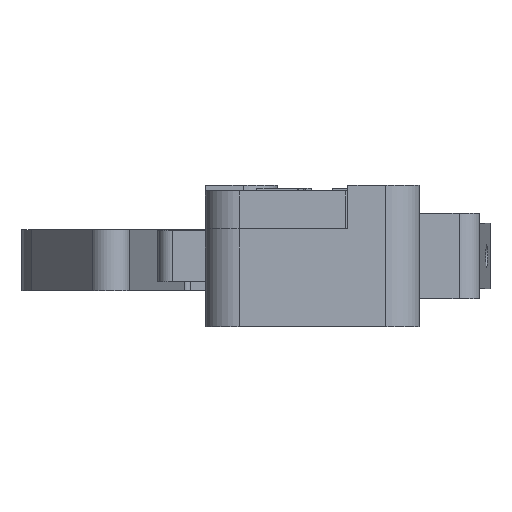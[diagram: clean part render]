
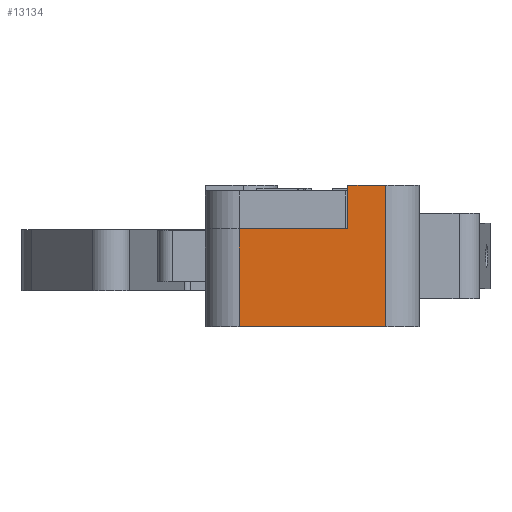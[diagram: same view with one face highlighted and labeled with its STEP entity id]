
A CAD part, left-side view. The second image highlights one B-rep face of the part: STEP entity #13134.
In plain terms, the highlighted planar face has unit normal (-1, 0, 0).
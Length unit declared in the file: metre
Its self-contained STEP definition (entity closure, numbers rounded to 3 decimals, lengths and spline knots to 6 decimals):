
#12180=CARTESIAN_POINT('',(-0.027238,-0.017123,0.033313));
#12181=VERTEX_POINT('',#12180);
#12215=CARTESIAN_POINT('',(-0.027238,-0.014323,0.033313));
#12216=VERTEX_POINT('',#12215);
#12219=CARTESIAN_POINT('',(-0.027238,-0.014323,0.033313));
#12220=DIRECTION('',(0.,-1.,0.));
#12221=VECTOR('',#12220,1.);
#12222=LINE('',#12219,#12221);
#12223=EDGE_CURVE('',#12216,#12181,#12222,.T.);
#12280=CARTESIAN_POINT('',(-0.027238,-0.014323,0.030113));
#12281=VERTEX_POINT('',#12280);
#12284=CARTESIAN_POINT('',(-0.027238,-0.014323,0.033313));
#12285=DIRECTION('',(0.,0.,-1.));
#12286=VECTOR('',#12285,1.);
#12287=LINE('',#12284,#12286);
#12288=EDGE_CURVE('',#12216,#12281,#12287,.T.);
#13079=CARTESIAN_POINT('',(-0.027238,-0.017123,0.022913));
#13080=VERTEX_POINT('',#13079);
#13085=CARTESIAN_POINT('',(-0.027238,-0.017123,0.033313));
#13086=DIRECTION('',(0.,0.,-1.));
#13087=VECTOR('',#13086,1.);
#13088=LINE('',#13085,#13087);
#13089=EDGE_CURVE('',#12181,#13080,#13088,.T.);
#13102=CARTESIAN_POINT('',(-0.027238,-0.014323,0.033313));
#13103=DIRECTION('',(1.,0.,0.));
#13104=DIRECTION('',(0.,1.,0.));
#13105=AXIS2_PLACEMENT_3D('',#13102,#13103,#13104);
#13106=PLANE('',#13105);
#13107=CARTESIAN_POINT('',(-0.027238,-0.014323,0.022913));
#13108=DIRECTION('',(0.,-1.,0.));
#13109=VECTOR('',#13108,1.);
#13110=LINE('',#13107,#13109);
#13111=CARTESIAN_POINT('',(-0.027238,-0.006323,0.022913));
#13112=VERTEX_POINT('',#13111);
#13113=EDGE_CURVE('',#13112,#13080,#13110,.T.);
#13114=ORIENTED_EDGE('',*,*,#13113,.T.);
#13115=ORIENTED_EDGE('',*,*,#13089,.F.);
#13116=ORIENTED_EDGE('',*,*,#12223,.F.);
#13117=ORIENTED_EDGE('',*,*,#12288,.T.);
#13118=CARTESIAN_POINT('',(-0.027238,-0.011723,0.030113));
#13119=DIRECTION('',(0.,-1.,0.));
#13120=VECTOR('',#13119,1.);
#13121=LINE('',#13118,#13120);
#13122=CARTESIAN_POINT('',(-0.027238,-0.006323,0.030113));
#13123=VERTEX_POINT('',#13122);
#13124=EDGE_CURVE('',#13123,#12281,#13121,.T.);
#13125=ORIENTED_EDGE('',*,*,#13124,.F.);
#13126=CARTESIAN_POINT('',(-0.027238,-0.006323,0.030113));
#13127=DIRECTION('',(0.,0.,-1.));
#13128=VECTOR('',#13127,1.);
#13129=LINE('',#13126,#13128);
#13130=EDGE_CURVE('',#13123,#13112,#13129,.T.);
#13131=ORIENTED_EDGE('',*,*,#13130,.T.);
#13132=EDGE_LOOP('',(#13114,#13115,#13116,#13117,#13125,#13131));
#13133=FACE_BOUND('',#13132,.T.);
#13134=ADVANCED_FACE('',(#13133),#13106,.F.);
